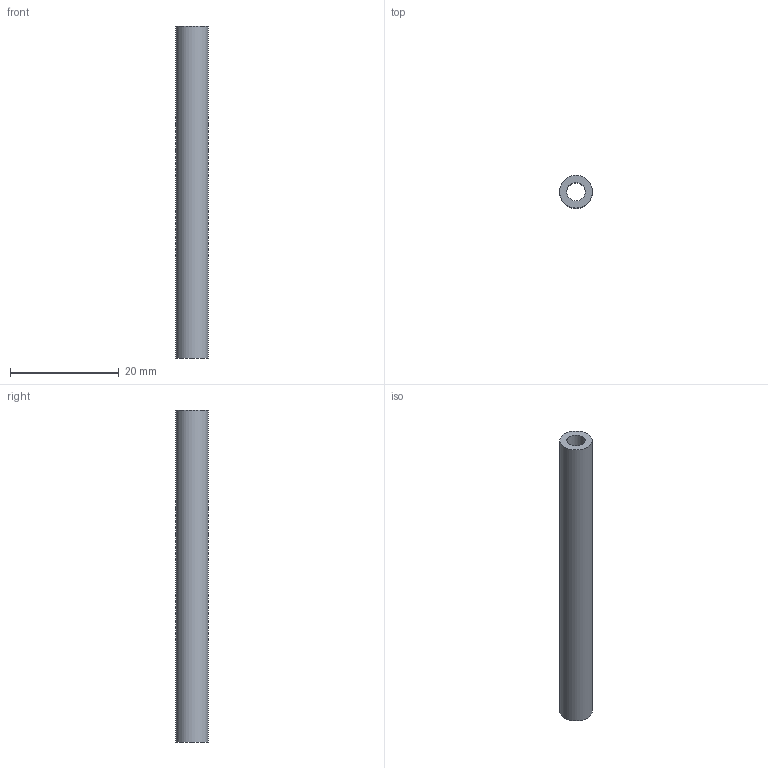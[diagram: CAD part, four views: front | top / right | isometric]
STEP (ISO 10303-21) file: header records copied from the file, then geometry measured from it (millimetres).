
FILE_DESCRIPTION(('Open CASCADE Model'),'2;1');
FILE_NAME('Open CASCADE Shape Model','2026-11-11T19:28:18',('Author'),( 'Open CASCADE'),'Open CASCADE STEP processor 7.9','Open CASCADE 7.9' ,'Unknown');
FILE_SCHEMA(('AUTOMOTIVE_DESIGN { 1 0 10303 214 1 1 1 1 }'));
Length unit declared in the file: millimetre
Products named in the file (1): Open CASCADE STEP translator 7.9 13
Bounding box: 6 x 6 x 61 mm (x, y, z)
Volume: 1170.9 mm3; surface area: 1839.8 mm2
Topology: 1 solids, 1 shells, 4 faces, 6 edges, 4 vertices
Faces by surface type: cylinder 2, plane 2
Full cylindrical faces by diameter (mm): 3.4 x1, 6 x1
Entity records: 192 total; most frequent: CARTESIAN_POINT 39, DIRECTION 30, ORIENTED_EDGE 12, PCURVE 12, DEFINITIONAL_REPRESENTATION 12, LINE 10, VECTOR 10, AXIS2_PLACEMENT_3D 9
